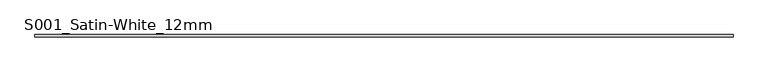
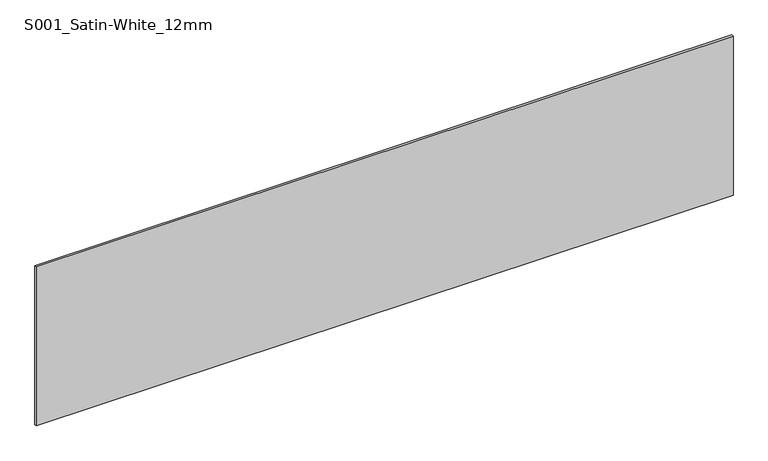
"""IFC4 building model written with IfcOpenShell, lengths in millimetres: plate geometry, Curtain-Panels_Outdoor-Material_HI-MACS_Solids : S001_Satin-White_12mm."""

from ifc_helpers import new_model, si_unit, origin, origin_with_axes, place, context, project, spatial, polyline, outline, extrude, source, transform, mapped, element, save


def s001_satin_white_12mm_6a684d74(model_context):
    return source(origin(), model_context, "Body", "SweptSolid", [
        extrude(outline(polyline([(1840.0, 6.0), (1840.0, -6.0), (-1840.0, -6.0), (-1840.0, 6.0), (1840.0, 6.0)])), origin_with_axes(), (0.0, 0.0, 1.0), 887.7043338),
    ])


if __name__ == "__main__":
    model = new_model("IFC4")
    model_context = context("Model", 3, world=origin())
    ifc_project = project(units=[si_unit("LENGTHUNIT", "METRE", prefix="MILLI")], contexts=[model_context])
    site = spatial("IfcSite", under=ifc_project)
    building = spatial("IfcBuilding", under=site)
    placement = place(None, origin())
    s001_satin_white_12mm_shape = s001_satin_white_12mm_6a684d74(model_context)
    element("IfcPlate", 1, ObjectType="Curtain-Panels_Outdoor-Material_HI-MACS_Solids : S001_Satin-White_12mm", at=placement, inside=building, context=model_context, shape_type="MappedRepresentation", body=[
        mapped(s001_satin_white_12mm_shape, transform((0.0, 0.0, 0.0), x_axis=(1.0, 0.0, 0.0), y_axis=(0.0, 1.0, 0.0), z_axis=(0.0, 0.0, 1.0))),
    ])
    save(model, "model.ifc")
